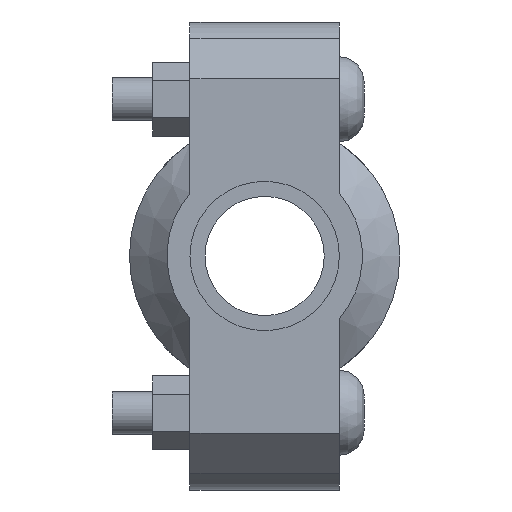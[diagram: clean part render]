
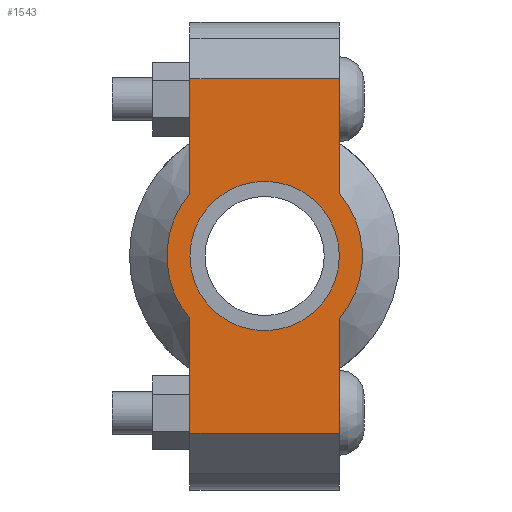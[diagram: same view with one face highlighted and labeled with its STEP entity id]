
A CAD part, left-side view. The second image highlights one B-rep face of the part: STEP entity #1543.
In plain terms, the highlighted planar face has unit normal (-1, 0, 0) as drawn and (0, 0, 1) by its records, which use the part's own axes.
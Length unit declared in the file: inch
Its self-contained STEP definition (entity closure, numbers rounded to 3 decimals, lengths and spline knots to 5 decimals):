
#154=LINE('',#2651,#249);
#169=LINE('',#2710,#264);
#177=LINE('',#2740,#272);
#179=LINE('',#2743,#274);
#180=LINE('',#2748,#275);
#181=LINE('',#2749,#276);
#249=VECTOR('',#2141,0.3937);
#264=VECTOR('',#2176,0.3937);
#272=VECTOR('',#2196,0.3937);
#274=VECTOR('',#2200,0.3937);
#275=VECTOR('',#2205,0.3937);
#276=VECTOR('',#2206,0.3937);
#336=FACE_BOUND('',#495,.T.);
#396=FACE_OUTER_BOUND('',#494,.T.);
#494=EDGE_LOOP('',(#1238,#1239,#1240,#1241,#1242,#1243,#1244,#1245));
#495=EDGE_LOOP('',(#1246));
#600=CIRCLE('',#1806,0.86);
#601=CIRCLE('',#1807,0.86);
#602=CIRCLE('',#1808,0.6575);
#709=VERTEX_POINT('',#2648);
#710=VERTEX_POINT('',#2650);
#731=VERTEX_POINT('',#2705);
#732=VERTEX_POINT('',#2709);
#741=VERTEX_POINT('',#2735);
#742=VERTEX_POINT('',#2739);
#743=VERTEX_POINT('',#2745);
#744=VERTEX_POINT('',#2747);
#745=VERTEX_POINT('',#2751);
#879=EDGE_CURVE('',#710,#709,#154,.T.);
#904=EDGE_CURVE('',#732,#731,#169,.T.);
#917=EDGE_CURVE('',#742,#741,#177,.T.);
#919=EDGE_CURVE('',#742,#709,#179,.T.);
#920=EDGE_CURVE('',#741,#743,#600,.T.);
#921=EDGE_CURVE('',#743,#744,#180,.T.);
#922=EDGE_CURVE('',#732,#744,#181,.T.);
#923=EDGE_CURVE('',#731,#710,#601,.T.);
#924=EDGE_CURVE('',#745,#745,#602,.T.);
#1238=ORIENTED_EDGE('',*,*,#919,.F.);
#1239=ORIENTED_EDGE('',*,*,#917,.T.);
#1240=ORIENTED_EDGE('',*,*,#920,.T.);
#1241=ORIENTED_EDGE('',*,*,#921,.T.);
#1242=ORIENTED_EDGE('',*,*,#922,.F.);
#1243=ORIENTED_EDGE('',*,*,#904,.T.);
#1244=ORIENTED_EDGE('',*,*,#923,.T.);
#1245=ORIENTED_EDGE('',*,*,#879,.T.);
#1246=ORIENTED_EDGE('',*,*,#924,.T.);
#1395=PLANE('',#1805);
#1543=ADVANCED_FACE('',(#396,#336),#1395,.T.);
#1805=AXIS2_PLACEMENT_3D('',#2744,#2201,#2202);
#1806=AXIS2_PLACEMENT_3D('',#2746,#2203,#2204);
#1807=AXIS2_PLACEMENT_3D('',#2750,#2207,#2208);
#1808=AXIS2_PLACEMENT_3D('',#2752,#2209,#2210);
#2141=DIRECTION('',(1.,0.,0.));
#2176=DIRECTION('',(1.,0.,0.));
#2196=DIRECTION('',(-1.,0.,0.));
#2200=DIRECTION('',(0.,-1.,0.));
#2201=DIRECTION('center_axis',(0.,0.,1.));
#2202=DIRECTION('ref_axis',(-1.,0.,0.));
#2203=DIRECTION('center_axis',(0.,0.,1.));
#2204=DIRECTION('ref_axis',(1.,0.,0.));
#2205=DIRECTION('',(-1.,0.,0.));
#2206=DIRECTION('',(0.,1.,0.));
#2207=DIRECTION('center_axis',(0.,0.,1.));
#2208=DIRECTION('ref_axis',(1.,0.,0.));
#2209=DIRECTION('center_axis',(0.,0.,-1.));
#2210=DIRECTION('ref_axis',(1.,0.,0.));
#2648=CARTESIAN_POINT('',(1.56,-0.6575,0.875));
#2650=CARTESIAN_POINT('',(0.55434,-0.6575,0.875));
#2651=CARTESIAN_POINT('',(-2.06,-0.6575,0.875));
#2705=CARTESIAN_POINT('',(-0.55434,-0.6575,0.875));
#2709=CARTESIAN_POINT('',(-1.56,-0.6575,0.875));
#2710=CARTESIAN_POINT('',(-2.06,-0.6575,0.875));
#2735=CARTESIAN_POINT('',(0.55434,0.6575,0.875));
#2739=CARTESIAN_POINT('',(1.56,0.6575,0.875));
#2740=CARTESIAN_POINT('',(2.06,0.6575,0.875));
#2743=CARTESIAN_POINT('',(1.56,-0.32875,0.875));
#2744=CARTESIAN_POINT('Origin',(0.,0.,
0.875));
#2745=CARTESIAN_POINT('',(-0.55434,0.6575,0.875));
#2746=CARTESIAN_POINT('Origin',(0.,0.,0.875));
#2747=CARTESIAN_POINT('',(-1.56,0.6575,0.875));
#2748=CARTESIAN_POINT('',(2.06,0.6575,0.875));
#2749=CARTESIAN_POINT('',(-1.56,0.32875,0.875));
#2750=CARTESIAN_POINT('Origin',(0.,0.,0.875));
#2751=CARTESIAN_POINT('',(-0.6575,0.,0.875));
#2752=CARTESIAN_POINT('Origin',(0.,0.,0.875));
